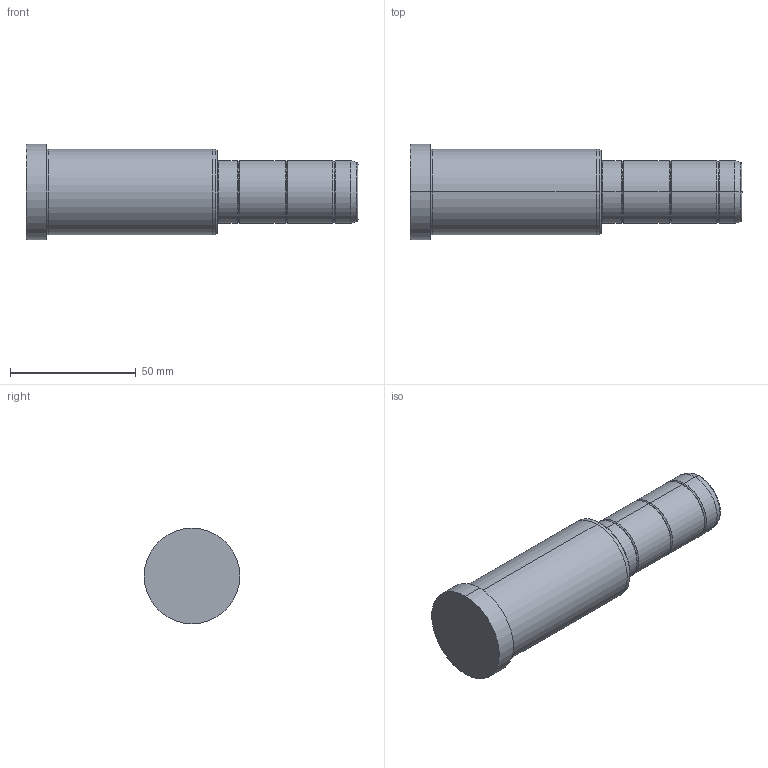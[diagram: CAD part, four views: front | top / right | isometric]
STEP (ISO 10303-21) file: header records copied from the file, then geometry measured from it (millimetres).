
FILE_DESCRIPTION( ( 'STEP AP203' ), '1' );
FILE_NAME( 'C:/Projects/D02 - 25x76x56.step', '2002-12-31T22:21:59', ( ' ' ), ( ' ' ), 'XStep 1.0', ' ', ' ' );
FILE_SCHEMA( ( 'CONFIG_CONTROL_DESIGN' ) );
Length unit declared in the file: metre
Products named in the file (1): 1
Bounding box: 132 x 38 x 38 mm (x, y, z)
Volume: 98169.1 mm3; surface area: 14890.3 mm2
Topology: 1 solids, 1 shells, 42 faces, 82 edges, 46 vertices
Faces by surface type: bspline 22, revolution 20
Entity records: 1325 total; most frequent: CARTESIAN_POINT 517, ORIENTED_EDGE 164, DIRECTION 134, EDGE_CURVE 82, AXIS2_PLACEMENT_3D 47, EDGE_LOOP 46, VERTEX_POINT 46, CIRCLE 46
